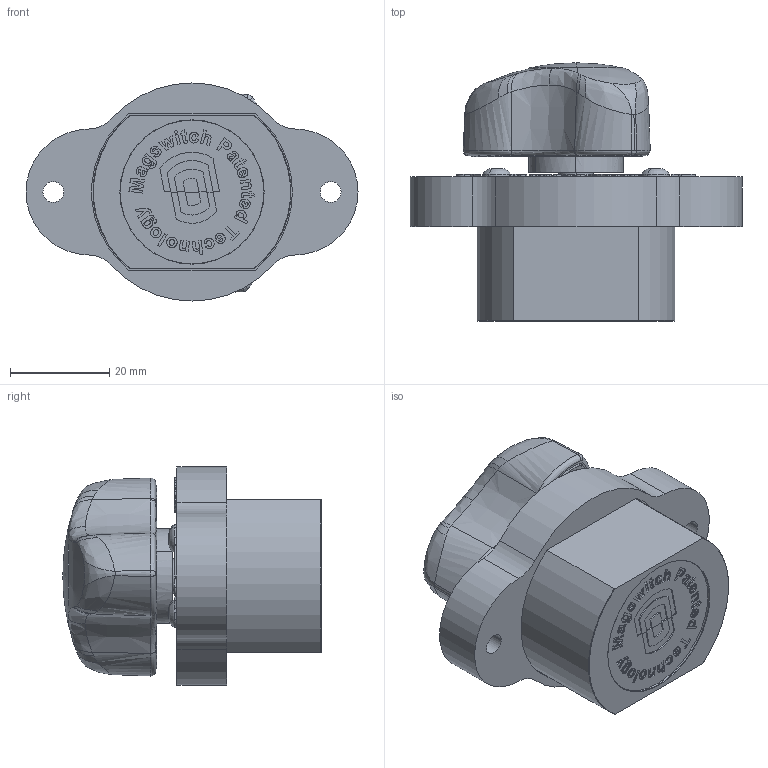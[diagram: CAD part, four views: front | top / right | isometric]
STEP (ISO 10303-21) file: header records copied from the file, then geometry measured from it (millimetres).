
FILE_DESCRIPTION (( 'STEP AP214' ), '1' );
FILE_NAME ('8110005_p.STEP', '2020-02-24T21:56:06', ( '' ), ( '' ), 'SwSTEP 2.0', 'SolidWorks 2018', '' );
FILE_SCHEMA (( 'AUTOMOTIVE_DESIGN' ));
Length unit declared in the file: millimetre
Products named in the file (1): 8110005_p
Bounding box: 67 x 52.12 x 44 mm (x, y, z)
Surface area: 17288.1 mm2 (no closed solid volume)
Topology: 0 solids, 5 shells, 1044 faces, 2825 edges, 1866 vertices
Faces by surface type: bspline 448, plane 446, cylinder 67, cone 53, torus 26, sphere 4
Entity records: 69597 total; most frequent: CARTESIAN_POINT 35509, ORIENTED_EDGE 5565, DIRECTION 3240, EDGE_CURVE 2825, VERTEX_POINT 1866, VECTOR 1446, LINE 1446, EDGE_LOOP 1136
